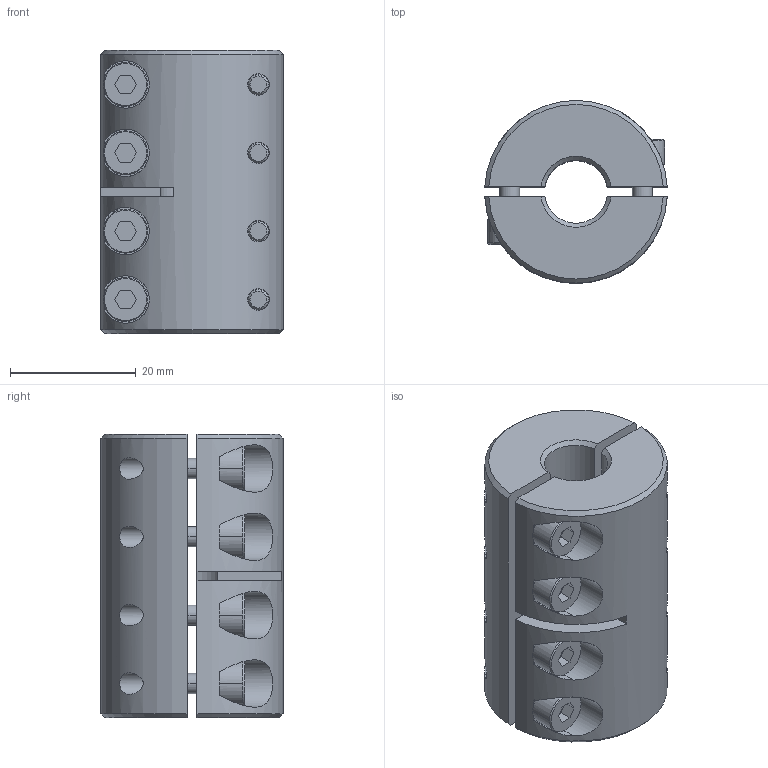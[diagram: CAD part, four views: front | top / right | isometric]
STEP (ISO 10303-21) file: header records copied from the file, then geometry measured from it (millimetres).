
FILE_DESCRIPTION((''),'2;1');
FILE_NAME('MSPX-10-10-F','2016-09-08T',('SYSTEM'),(''),'PRO/ENGINEER BY PARAMETRIC TECHNOLOGY CORPORATION, 2015110','PRO/ENGINEER BY PARAMETRIC TECHNOLOGY CORPORATION, 2015110','');
FILE_SCHEMA(('AUTOMOTIVE_DESIGN { 1 0 10303 214 1 1 1 1 }'));
Length unit declared in the file: millimetre
Products named in the file (1): MSPX-10-10-F
Bounding box: 28.96 x 29 x 45 mm (x, y, z)
Volume: 23395.1 mm3; surface area: 11809.5 mm2
Topology: 2 solids, 2 shells, 236 faces, 552 edges, 352 vertices
Faces by surface type: plane 112, cylinder 84, cone 40
Entity records: 8953 total; most frequent: CARTESIAN_POINT 1718, DIRECTION 1176, ORIENTED_EDGE 1104, EDGE_CURVE 552, AXIS2_PLACEMENT_3D 436, VERTEX_POINT 352, VECTOR 304, LINE 304
